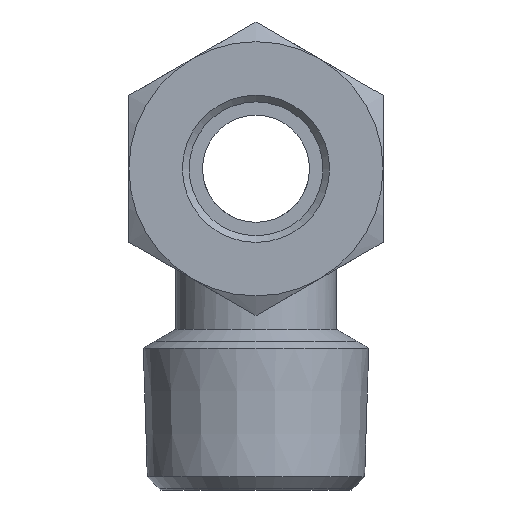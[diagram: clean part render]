
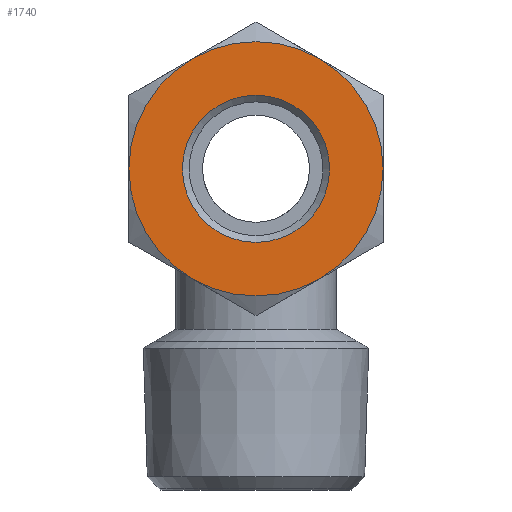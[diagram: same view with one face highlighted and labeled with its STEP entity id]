
A CAD part, left-side view. The second image highlights one B-rep face of the part: STEP entity #1740.
In plain terms, the highlighted planar face has unit normal (-1, 0, 0).
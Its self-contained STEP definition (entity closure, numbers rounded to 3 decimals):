
#1740=ADVANCED_FACE('', (#1750,#1760), #1770, .T.);
#8600=AXIS2_PLACEMENT_3D('Ax2Pl3d', #8610, #8620, #8630);
#8640=AXIS2_PLACEMENT_3D('Ax2Pl3d', #8650, #8660, #8670);
#8680=AXIS2_PLACEMENT_3D('Ax2Pl3d', #8690, #8700, #8710);
#8720=AXIS2_PLACEMENT_3D('Ax2Pl3d', #8730, #8740, #8750);
#8760=AXIS2_PLACEMENT_3D('Ax2Pl3d', #8770, #8780, #8790);
#8800=AXIS2_PLACEMENT_3D('Ax2Pl3d', #8810, #8820, #8830);
#8840=AXIS2_PLACEMENT_3D('Ax2Pl3d', #8850, #8860, #8870);
#8880=AXIS2_PLACEMENT_3D('Ax2Pl3d', #8890, #8900, #8910);
#46570=CARTESIAN_POINT('', (0.404,22.831,26.122))
;
#46640=CARTESIAN_POINT('', (0.404,27.581,34.349));
#46690=CARTESIAN_POINT('', (0.404,22.831,42.576));
#46760=CARTESIAN_POINT('', (0.404,13.331,42.576));
#46800=CARTESIAN_POINT('', (0.404,8.581,34.349))
;
#46840=CARTESIAN_POINT('', (0.404,13.331,26.122))
;
#8610=CARTESIAN_POINT('HicPkt', (0.404,18.081,
43.849));
#8650=CARTESIAN_POINT('HicPkt', (0.404,18.081,
34.349));
#8690=CARTESIAN_POINT('HicPkt', (0.404,18.081,
34.349));
#8730=CARTESIAN_POINT('HicPkt', (0.404,18.081,
34.349));
#8770=CARTESIAN_POINT('HicPkt', (0.404,18.081,
34.349));
#8810=CARTESIAN_POINT('HicPkt', (0.404,18.081,
34.349));
#8850=CARTESIAN_POINT('HicPkt', (0.404,18.081,
34.349));
#8890=CARTESIAN_POINT('HicPkt', (0.404,18.081,
34.349));
#46880=CARTESIAN_POINT('', (0.404,23.581,34.349));
#48980=CIRCLE('Circle', #8640, 9.5);
#48990=CIRCLE('Circle', #8680, 9.5);
#49000=CIRCLE('Circle', #8720, 9.5);
#49010=CIRCLE('Circle', #8760, 9.5);
#49020=CIRCLE('Circle', #8800, 9.5);
#49030=CIRCLE('Circle', #8840, 9.5);
#49040=CIRCLE('Circle', #8880, 5.5);
#8620=DIRECTION('Axis', (-1.,0.,0.)
);
#8630=DIRECTION('RefDirection', (0.,
0.,-1.));
#8660=DIRECTION('Axis', (-1.,0.,0.)
);
#8670=DIRECTION('RefDirection', (0.,
0.,-1.));
#8700=DIRECTION('Axis', (-1.,0.,0.)
);
#8710=DIRECTION('RefDirection', (0.,
0.,-1.));
#8740=DIRECTION('Axis', (-1.,0.,0.)
);
#8750=DIRECTION('RefDirection', (0.,
0.,-1.));
#8780=DIRECTION('Axis', (-1.,0.,0.)
);
#8790=DIRECTION('RefDirection', (0.,
0.,-1.));
#8820=DIRECTION('Axis', (-1.,0.,0.)
);
#8830=DIRECTION('RefDirection', (0.,
0.,-1.));
#8860=DIRECTION('Axis', (1.,0.,0.));
#8870=DIRECTION('RefDirection', (0.,0.,-1.));
#8900=DIRECTION('Axis', (1.,0.,0.));
#8910=DIRECTION('RefDirection', (0.,0.,-1.));
#59590=EDGE_CURVE('', #59140, #59040, #48980, .T.);
#59600=EDGE_CURVE('', #59040, #58910, #48990, .T.);
#59610=EDGE_CURVE('', #58910, #59440, #49000, .T.);
#59620=EDGE_CURVE('', #59440, #59360, #49010, .T.);
#59630=EDGE_CURVE('', #59360, #59280, #49020, .T.);
#59640=EDGE_CURVE('', #59140, #59280, #49030, .T.);
#59650=EDGE_CURVE('', #59660, #59660, #49040, .T.);
#65320=EDGE_LOOP('Edge_loop', (#65330,#65340,#65350,#65360,#65370,
#65380));
#65390=EDGE_LOOP('Edge_loop', (#65400));
#1760=FACE_BOUND('', #65390, .T.);
#1750=FACE_OUTER_BOUND('Face_outer_bound', #65320, .T.);
#65330=ORIENTED_EDGE('', *, *, #59590, .T.);
#65340=ORIENTED_EDGE('', *, *, #59600, .T.);
#65350=ORIENTED_EDGE('', *, *, #59610, .T.);
#65360=ORIENTED_EDGE('', *, *, #59620, .T.);
#65370=ORIENTED_EDGE('', *, *, #59630, .T.);
#65380=ORIENTED_EDGE('', *, *, #59640, .F.);
#65400=ORIENTED_EDGE('', *, *, #59650, .T.);
#1770=PLANE('Plane', #8600);
#58910=VERTEX_POINT('', #46570);
#59040=VERTEX_POINT('', #46640);
#59140=VERTEX_POINT('', #46690);
#59280=VERTEX_POINT('', #46760);
#59360=VERTEX_POINT('', #46800);
#59440=VERTEX_POINT('', #46840);
#59660=VERTEX_POINT('', #46880);
